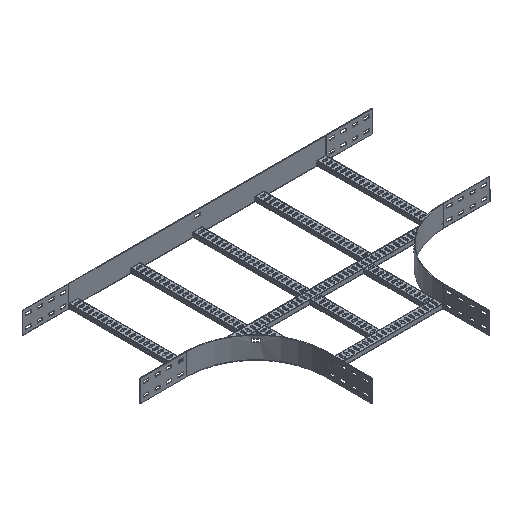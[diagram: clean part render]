
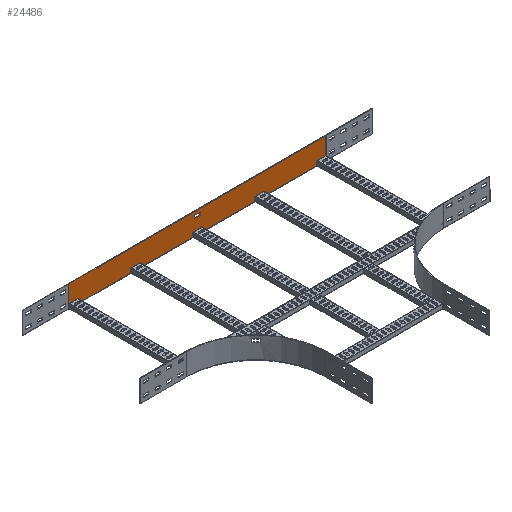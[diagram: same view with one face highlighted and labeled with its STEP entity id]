
A CAD part, isometric view. The second image highlights one B-rep face of the part: STEP entity #24486.
In plain terms, the highlighted planar face has unit normal (0, -1, 0).
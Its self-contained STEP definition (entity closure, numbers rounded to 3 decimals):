
#1056=FACE_BOUND('',#4960,.T.);
#3298=FACE_OUTER_BOUND('',#4959,.T.);
#4959=EDGE_LOOP('',(#22427,#22428,#22429,#22430));
#4960=EDGE_LOOP('',(#22431,#22432,#22433,#22434));
#7334=LINE('',#53557,#9778);
#7336=LINE('',#53563,#9780);
#7339=LINE('',#53568,#9783);
#7346=LINE('',#53581,#9790);
#7347=LINE('',#53585,#9791);
#7348=LINE('',#53587,#9792);
#7349=LINE('',#53589,#9793);
#7350=LINE('',#53590,#9794);
#9778=VECTOR('',#32064,304.8);
#9780=VECTOR('',#32068,304.8);
#9783=VECTOR('',#32073,304.8);
#9790=VECTOR('',#32084,304.8);
#9791=VECTOR('',#32087,304.8);
#9792=VECTOR('',#32088,304.8);
#9793=VECTOR('',#32089,304.8);
#9794=VECTOR('',#32090,304.8);
#12139=VERTEX_POINT('',#53550);
#12142=VERTEX_POINT('',#53555);
#12144=VERTEX_POINT('',#53560);
#12145=VERTEX_POINT('',#53562);
#12151=VERTEX_POINT('',#53583);
#12152=VERTEX_POINT('',#53584);
#12153=VERTEX_POINT('',#53586);
#12154=VERTEX_POINT('',#53588);
#15578=EDGE_CURVE('',#12142,#12139,#7334,.T.);
#15580=EDGE_CURVE('',#12144,#12145,#7336,.T.);
#15583=EDGE_CURVE('',#12139,#12144,#7339,.T.);
#15590=EDGE_CURVE('',#12145,#12142,#7346,.T.);
#15591=EDGE_CURVE('',#12151,#12152,#7347,.T.);
#15592=EDGE_CURVE('',#12152,#12153,#7348,.T.);
#15593=EDGE_CURVE('',#12153,#12154,#7349,.T.);
#15594=EDGE_CURVE('',#12154,#12151,#7350,.T.);
#22427=ORIENTED_EDGE('',*,*,#15578,.F.);
#22428=ORIENTED_EDGE('',*,*,#15590,.F.);
#22429=ORIENTED_EDGE('',*,*,#15580,.F.);
#22430=ORIENTED_EDGE('',*,*,#15583,.F.);
#22431=ORIENTED_EDGE('',*,*,#15591,.T.);
#22432=ORIENTED_EDGE('',*,*,#15592,.T.);
#22433=ORIENTED_EDGE('',*,*,#15593,.T.);
#22434=ORIENTED_EDGE('',*,*,#15594,.T.);
#23298=PLANE('',#26262);
#24486=ADVANCED_FACE('',(#3298,#1056),#23298,.T.);
#26262=AXIS2_PLACEMENT_3D('',#53582,#32085,#32086);
#32064=DIRECTION('',(0.,0.,1.));
#32068=DIRECTION('',(0.,0.,-1.));
#32073=DIRECTION('',(1.,0.,0.));
#32084=DIRECTION('',(-1.,0.,0.));
#32085=DIRECTION('center_axis',(0.,-1.,0.));
#32086=DIRECTION('ref_axis',(1.,0.,0.));
#32087=DIRECTION('',(-1.,0.,0.));
#32088=DIRECTION('',(0.,0.,1.));
#32089=DIRECTION('',(1.,0.,0.));
#32090=DIRECTION('',(0.,0.,-1.));
#53550=CARTESIAN_POINT('',(-555.5,252.5,47.));
#53555=CARTESIAN_POINT('',(-555.5,252.5,-47.));
#53557=CARTESIAN_POINT('',(-555.5,252.5,-47.));
#53560=CARTESIAN_POINT('',(555.5,252.5,47.));
#53562=CARTESIAN_POINT('',(555.5,252.5,-47.));
#53563=CARTESIAN_POINT('',(555.5,252.5,47.));
#53568=CARTESIAN_POINT('',(-555.5,252.5,47.));
#53581=CARTESIAN_POINT('',(-555.5,252.5,-47.));
#53582=CARTESIAN_POINT('Origin',(-555.5,252.5,-47.));
#53583=CARTESIAN_POINT('',(12.5,252.5,20.46));
#53584=CARTESIAN_POINT('',(-12.5,252.5,20.46));
#53585=CARTESIAN_POINT('',(12.5,252.5,20.46));
#53586=CARTESIAN_POINT('',(-12.5,252.5,31.46));
#53587=CARTESIAN_POINT('',(-12.5,252.5,20.46));
#53588=CARTESIAN_POINT('',(12.5,252.5,31.46));
#53589=CARTESIAN_POINT('',(-12.5,252.5,31.46));
#53590=CARTESIAN_POINT('',(12.5,252.5,31.46));
